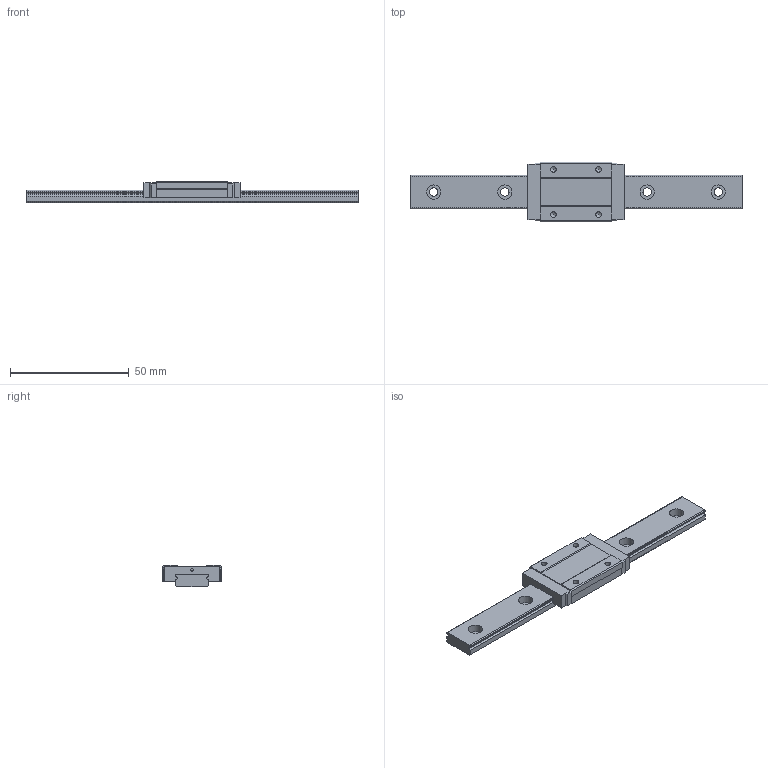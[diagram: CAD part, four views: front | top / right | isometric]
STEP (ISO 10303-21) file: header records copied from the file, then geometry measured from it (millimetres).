
FILE_DESCRIPTION((''),'2;1');
FILE_NAME('C:\Documents and Settings\土屋\My Documents\土屋移動用フォルダ\製品 (図面)\カタログ用3D\リニアガイド\EGM-WL\EGM7WL.stp','2015-02-21T13:18:01',('y'),(''),'Autodesk Inventor 11','Autodesk Inventor 11','');
FILE_SCHEMA(('AUTOMOTIVE_DESIGN { 1 0 10303 214 1 1 1 1 }'));
Length unit declared in the file: millimetre
Products named in the file (3): EGM7WL; EGM7WLレール; EGM7WLベアリング
Assembly tree (2 placements, depth 2):
  EGM7WL
    EGM7WLレール
    EGM7WLベアリング
Bounding box: 140 x 25 x 9 mm (x, y, z)
Volume: 14158.4 mm3; surface area: 9347.9 mm2
Topology: 2 solids, 2 shells, 99 faces, 260 edges, 172 vertices
Faces by surface type: plane 54, bspline 25, cylinder 20
Full cylindrical faces by diameter (mm): 1.1 x1
Entity records: 3223 total; most frequent: CARTESIAN_POINT 841, ORIENTED_EDGE 464, DIRECTION 460, EDGE_CURVE 232, VERTEX_POINT 164, VECTOR 162, LINE 162, AXIS2_PLACEMENT_3D 149
